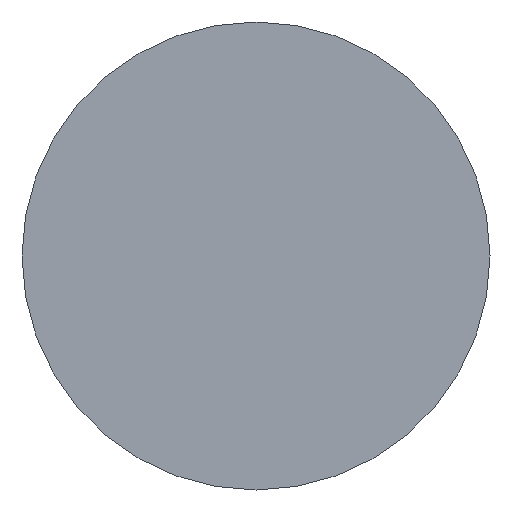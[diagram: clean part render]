
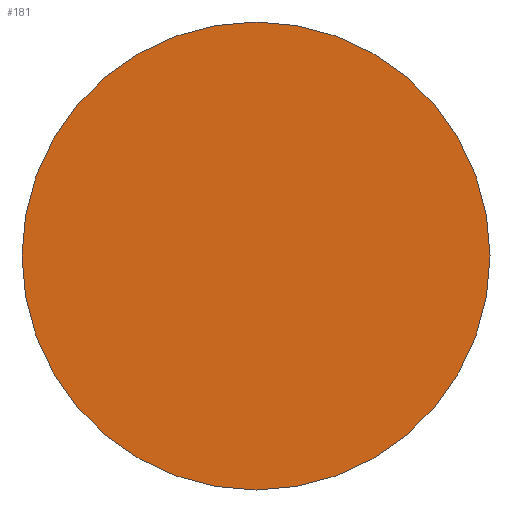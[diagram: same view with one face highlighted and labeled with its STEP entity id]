
A CAD part, left-side view. The second image highlights one B-rep face of the part: STEP entity #181.
In plain terms, the highlighted planar face has unit normal (-1, 0, 0).
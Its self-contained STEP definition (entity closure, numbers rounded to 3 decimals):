
#8 = CIRCLE ( 'NONE', #244, 7. ) ;
#16 = AXIS2_PLACEMENT_3D ( 'NONE', #192, #89, #239 ) ;
#44 = FACE_OUTER_BOUND ( 'NONE', #264, .T. ) ;
#64 = VERTEX_POINT ( 'NONE', #82 ) ;
#82 = CARTESIAN_POINT ( 'NONE',  ( 0., 7., 0. ) ) ;
#89 = DIRECTION ( 'NONE',  ( -1., 0., 0. ) ) ;
#118 = EDGE_CURVE ( 'NONE', #144, #64, #8, .T. ) ;
#125 = ORIENTED_EDGE ( 'NONE', *, *, #118, .F. ) ;
#133 = DIRECTION ( 'NONE',  ( 1., 0., 0. ) ) ;
#136 = DIRECTION ( 'NONE',  ( 0., 1., 0. ) ) ;
#144 = VERTEX_POINT ( 'NONE', #228 ) ;
#175 = PLANE ( 'NONE',  #16 ) ;
#181 = ADVANCED_FACE ( 'NONE', ( #44 ), #175, .T. ) ;
#187 = CARTESIAN_POINT ( 'NONE',  ( 0., 0., 0. ) ) ;
#192 = CARTESIAN_POINT ( 'NONE',  ( 0., 0., 0. ) ) ;
#201 = CARTESIAN_POINT ( 'NONE',  ( 0., 0., 0. ) ) ;
#208 = DIRECTION ( 'NONE',  ( 0., 1., 0. ) ) ;
#215 = AXIS2_PLACEMENT_3D ( 'NONE', #201, #133, #136 ) ;
#228 = CARTESIAN_POINT ( 'NONE',  ( 0., -7., 0. ) ) ;
#239 = DIRECTION ( 'NONE',  ( 0., -1., 0. ) ) ;
#244 = AXIS2_PLACEMENT_3D ( 'NONE', #187, #256, #208 ) ;
#245 = CIRCLE ( 'NONE', #215, 7. ) ;
#247 = ORIENTED_EDGE ( 'NONE', *, *, #263, .F. ) ;
#256 = DIRECTION ( 'NONE',  ( 1., 0., 0. ) ) ;
#263 = EDGE_CURVE ( 'NONE', #64, #144, #245, .T. ) ;
#264 = EDGE_LOOP ( 'NONE', ( #247, #125 ) ) ;
